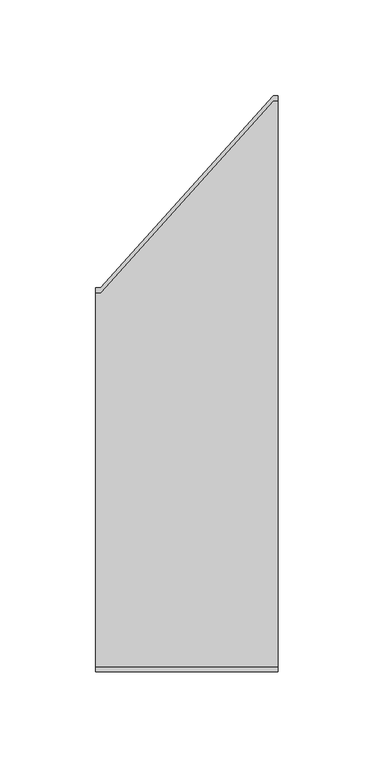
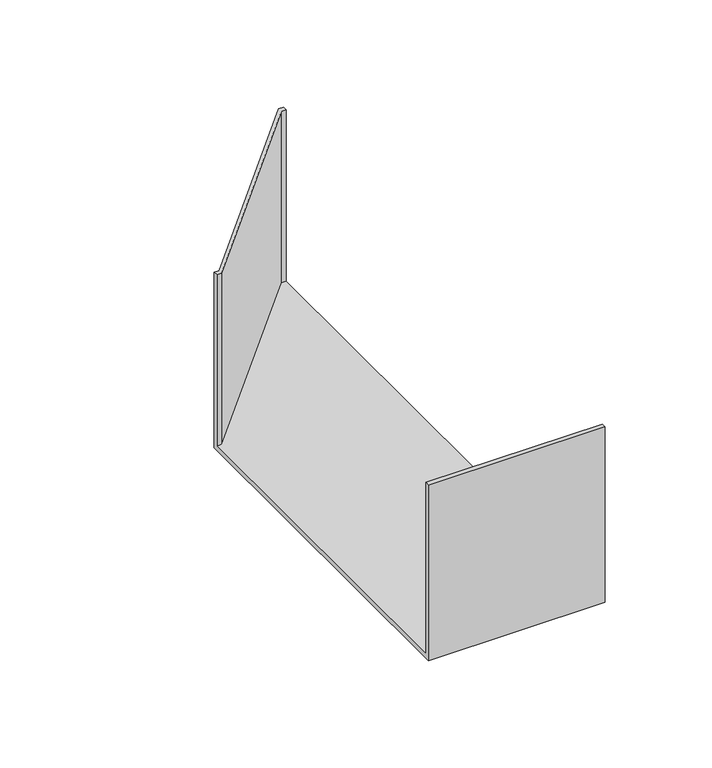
"""IFC4 building model written with IfcOpenShell, lengths in millimetres: cable carrier fitting geometry, BAKS_Reducer : RK(S/L/P)J_H100."""

from ifc_helpers import new_model, si_unit, origin, place, context, project, spatial, faceted_brep, source, transform, mapped, element, save


def cable_carrier_fitting_c163f1ca(model_context):
    return source(origin(), model_context, "Body", "Brep", [
        faceted_brep([(0.0, -100.0, -50.0), (0.0, -100.0, 50.0), (0.0, -97.46, 50.0), (0.0, -97.46, -47.46), (0.0, 97.46, -47.46), (0.0, 97.46, 50.0), (0.0, 100.0, 50.0), (0.0, 100.0, -50.0), (95.0, -100.0, -50.0), (95.0, 200.0, -50.0), (95.0, 200.0, 50.0), (95.0, 197.46, 50.0), (95.0, 197.46, -47.46), (95.0, -97.46, -47.46), (95.0, -97.46, 50.0), (95.0, -100.0, 50.0), (92.5, 197.46, -47.46), (2.5, 97.46, -47.46), (2.5, 97.46, 50.0), (92.5, 197.46, 50.0), (92.5, 200.0, 50.0), (2.5, 100.0, 50.0), (2.5, 100.0, -50.0), (92.5, 200.0, -50.0)], [[[0, 1, 2, 3, 4, 5, 6, 7]], [[8, 9, 10, 11, 12, 13, 14, 15]], [[1, 0, 8, 15]], [[2, 1, 15, 14]], [[3, 2, 14, 13]], [[4, 3, 13, 12, 16, 17]], [[5, 4, 17, 18]], [[6, 5, 18, 19, 11, 10, 20, 21]], [[7, 6, 21, 22]], [[8, 0, 7, 22, 23, 9]], [[12, 11, 19, 16]], [[10, 9, 23, 20]], [[23, 22, 21, 20]], [[19, 18, 17, 16]]]),
    ])


if __name__ == "__main__":
    model = new_model("IFC4")
    model_context = context("Model", 3, world=origin())
    ifc_project = project(units=[si_unit("LENGTHUNIT", "METRE", prefix="MILLI")], contexts=[model_context])
    site = spatial("IfcSite", under=ifc_project)
    building = spatial("IfcBuilding", under=site)
    placement = place(None, origin())
    cable_carrier_fitting_shape = cable_carrier_fitting_c163f1ca(model_context)
    element("IfcCableCarrierFitting", 1, ObjectType="BAKS_Reducer : RK(S/L/P)J_H100", at=placement, inside=building, context=model_context, shape_type="MappedRepresentation", body=[
        mapped(cable_carrier_fitting_shape, transform((0.0, 0.0, 0.0), x_axis=(1.0, 0.0, 0.0), y_axis=(0.0, 1.0, 0.0), z_axis=(0.0, 0.0, 1.0))),
    ])
    save(model, "model.ifc")
